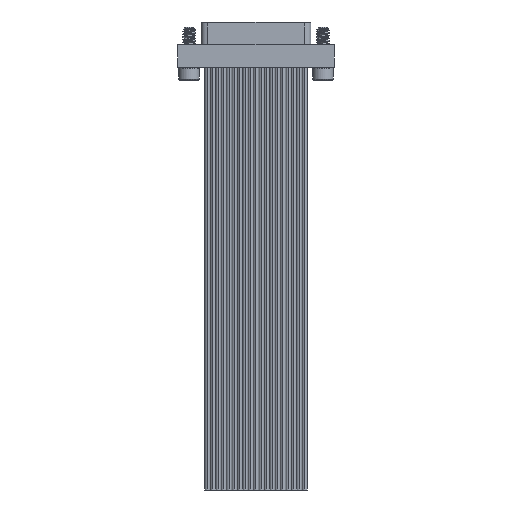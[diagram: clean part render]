
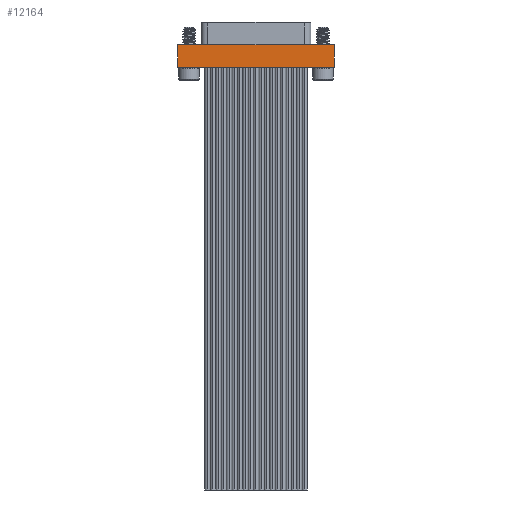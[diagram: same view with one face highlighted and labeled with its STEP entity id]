
A CAD part, front view. The second image highlights one B-rep face of the part: STEP entity #12164.
In plain terms, the highlighted planar face has unit normal (0, -1, 0).
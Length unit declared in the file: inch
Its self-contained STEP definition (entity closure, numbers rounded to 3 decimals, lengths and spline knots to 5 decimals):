
#137 = DIRECTION ( 'NONE',  ( 1., 0., 0. ) ) ;
#1393 = ORIENTED_EDGE ( 'NONE', *, *, #19277, .T. ) ;
#1530 = LINE ( 'NONE', #11123, #18143 ) ;
#1750 = VECTOR ( 'NONE', #15214, 39.37008 ) ;
#2741 = VECTOR ( 'NONE', #137, 39.37008 ) ;
#3418 = LINE ( 'NONE', #8754, #2741 ) ;
#3664 = DIRECTION ( 'NONE',  ( -1., 0., 0. ) ) ;
#6439 = CARTESIAN_POINT ( 'NONE',  ( 0.3625, -0.0625, -0.21 ) ) ;
#7143 = VERTEX_POINT ( 'NONE', #14486 ) ;
#7422 = ORIENTED_EDGE ( 'NONE', *, *, #18639, .T. ) ;
#8754 = CARTESIAN_POINT ( 'NONE',  ( 0.3625, -0.0625, -0.21 ) ) ;
#10090 = CARTESIAN_POINT ( 'NONE',  ( 0.3625, -0.0625, -0.105 ) ) ;
#10744 = EDGE_CURVE ( 'NONE', #15899, #23121, #3418, .T. ) ;
#10792 = PLANE ( 'NONE',  #22248 ) ;
#11117 = CARTESIAN_POINT ( 'NONE',  ( 0.3625, -0.0625, -0.21 ) ) ;
#11123 = CARTESIAN_POINT ( 'NONE',  ( -0.3625, -0.0625, -0.21 ) ) ;
#12164 = ADVANCED_FACE ( 'NONE', ( #20298 ), #10792, .T. ) ;
#13047 = CARTESIAN_POINT ( 'NONE',  ( -0.3625, -0.0625, -0.21 ) ) ;
#14486 = CARTESIAN_POINT ( 'NONE',  ( -0.3625, -0.0625, -0.105 ) ) ;
#15163 = DIRECTION ( 'NONE',  ( 0., 0., 1. ) ) ;
#15214 = DIRECTION ( 'NONE',  ( 0., 0., 1. ) ) ;
#15899 = VERTEX_POINT ( 'NONE', #13047 ) ;
#15987 = EDGE_CURVE ( 'NONE', #15899, #7143, #1530, .T. ) ;
#18143 = VECTOR ( 'NONE', #22039, 39.37008 ) ;
#18639 = EDGE_CURVE ( 'NONE', #23482, #7143, #25406, .T. ) ;
#19020 = LINE ( 'NONE', #11117, #1750 ) ;
#19045 = CARTESIAN_POINT ( 'NONE',  ( 0.3625, -0.0625, -0.105 ) ) ;
#19277 = EDGE_CURVE ( 'NONE', #23121, #23482, #19020, .T. ) ;
#19696 = VECTOR ( 'NONE', #3664, 39.37008 ) ;
#20298 = FACE_OUTER_BOUND ( 'NONE', #27314, .T. ) ;
#22039 = DIRECTION ( 'NONE',  ( 0., 0., 1. ) ) ;
#22248 = AXIS2_PLACEMENT_3D ( 'NONE', #6439, #28082, #15163 ) ;
#23121 = VERTEX_POINT ( 'NONE', #26924 ) ;
#23482 = VERTEX_POINT ( 'NONE', #19045 ) ;
#25406 = LINE ( 'NONE', #10090, #19696 ) ;
#25902 = ORIENTED_EDGE ( 'NONE', *, *, #10744, .T. ) ;
#26777 = ORIENTED_EDGE ( 'NONE', *, *, #15987, .F. ) ;
#26924 = CARTESIAN_POINT ( 'NONE',  ( 0.3625, -0.0625, -0.21 ) ) ;
#27314 = EDGE_LOOP ( 'NONE', ( #1393, #7422, #26777, #25902 ) ) ;
#28082 = DIRECTION ( 'NONE',  ( 0., -1., 0. ) ) ;
